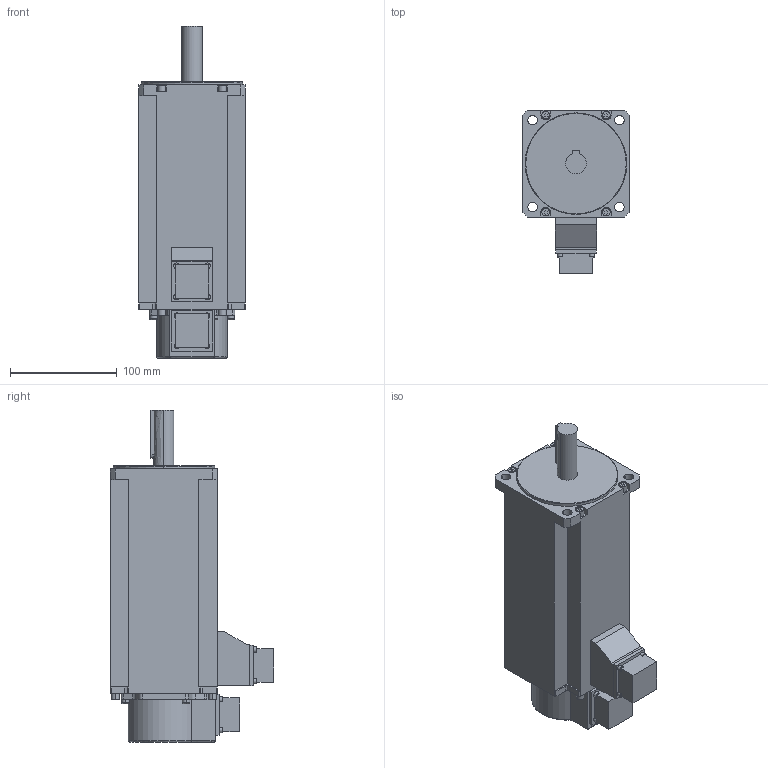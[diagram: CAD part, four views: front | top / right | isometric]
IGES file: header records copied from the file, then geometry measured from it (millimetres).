
Start section:  PTC IGES file: rsms_25atk3-070830.igs
Global section: file name: rsms_25atk3-070830.igs; native system: Pro/ENGINEER by Parametric Technology Corporation; preprocessor: 2004440; author: Administrator; organization: Unknown; date: 070830.160547; units: millimetre
Bounding box: 100 x 152.7 x 310.5 mm (x, y, z)
Volume: 2198632.1 mm3; surface area: 133714.5 mm2
Topology: 1 solids, 1 shells, 270 faces, 708 edges, 464 vertices
Faces by surface type: bspline 171, revolution 99
